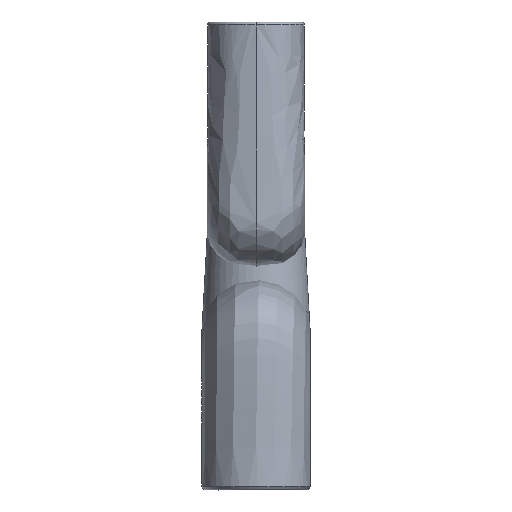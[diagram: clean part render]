
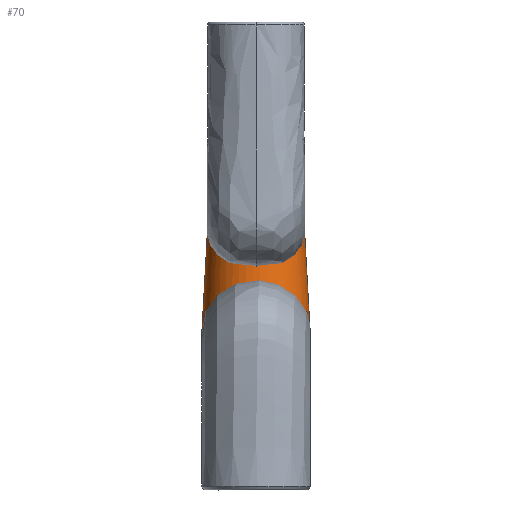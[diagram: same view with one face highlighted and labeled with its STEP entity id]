
A CAD part, left-side view. The second image highlights one B-rep face of the part: STEP entity #70.
In plain terms, the highlighted free-form (B-spline) face has degree [2, 1] with [5, 2] control points.
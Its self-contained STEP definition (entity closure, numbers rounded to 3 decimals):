
#70=ADVANCED_FACE('',(#211),#1578,.T.);
#211=FACE_OUTER_BOUND('',#352,.T.);
#352=EDGE_LOOP('',(#495,#496,#497,#498));
#495=ORIENTED_EDGE('',*,*,#1094,.T.);
#496=ORIENTED_EDGE('',*,*,#1096,.T.);
#497=ORIENTED_EDGE('',*,*,#1092,.F.);
#498=ORIENTED_EDGE('',*,*,#1091,.T.);
#1091=EDGE_CURVE('',#1403,#1405,#1716,.T.);
#1092=EDGE_CURVE('',#1403,#1404,#1717,.T.);
#1094=EDGE_CURVE('',#1405,#1406,#1719,.T.);
#1096=EDGE_CURVE('',#1406,#1404,#1721,.T.);
#1403=VERTEX_POINT('',#2160);
#1404=VERTEX_POINT('',#2161);
#1405=VERTEX_POINT('',#2162);
#1406=VERTEX_POINT('',#2163);
#1578=(
BOUNDED_SURFACE()
B_SPLINE_SURFACE(2,1,((#2140,#2141),(#2142,#2143),(#2144,#2145),(#2146,
#2147),(#2148,#2149)),.UNSPECIFIED.,.F.,.F.,.F.)
B_SPLINE_SURFACE_WITH_KNOTS((3,2,3),(2,2),(0.,79.166,158.332),
(0.,106.943),.UNSPECIFIED.)
GEOMETRIC_REPRESENTATION_ITEM()
RATIONAL_B_SPLINE_SURFACE(((1.,1.),(0.707,0.707),
(1.,1.),(0.707,0.707),(1.,1.)))
REPRESENTATION_ITEM('')
SURFACE()
);
#1716=(
BOUNDED_CURVE()
B_SPLINE_CURVE(2,(#2164,#2165,#2166,#2167,#2168),.UNSPECIFIED.,.F.,.F.)
B_SPLINE_CURVE_WITH_KNOTS((3,2,3),(0.,79.166,158.332),
 .UNSPECIFIED.)
CURVE()
GEOMETRIC_REPRESENTATION_ITEM()
RATIONAL_B_SPLINE_CURVE((1.,0.707,1.,0.707,1.))
REPRESENTATION_ITEM('')
);
#1717=(
BOUNDED_CURVE()
B_SPLINE_CURVE(1,(#2169,#2170),.UNSPECIFIED.,.F.,.F.)
B_SPLINE_CURVE_WITH_KNOTS((2,2),(0.,106.943),.UNSPECIFIED.)
CURVE()
GEOMETRIC_REPRESENTATION_ITEM()
RATIONAL_B_SPLINE_CURVE((1.,1.))
REPRESENTATION_ITEM('')
);
#1719=(
BOUNDED_CURVE()
B_SPLINE_CURVE(1,(#2176,#2177),.UNSPECIFIED.,.F.,.F.)
B_SPLINE_CURVE_WITH_KNOTS((2,2),(0.,106.943),.UNSPECIFIED.)
CURVE()
GEOMETRIC_REPRESENTATION_ITEM()
RATIONAL_B_SPLINE_CURVE((1.,1.))
REPRESENTATION_ITEM('')
);
#1721=(
BOUNDED_CURVE()
B_SPLINE_CURVE(2,(#2183,#2184,#2185,#2186,#2187),.UNSPECIFIED.,.F.,.F.)
B_SPLINE_CURVE_WITH_KNOTS((3,2,3),(-158.332,-79.166,0.),
 .UNSPECIFIED.)
CURVE()
GEOMETRIC_REPRESENTATION_ITEM()
RATIONAL_B_SPLINE_CURVE((1.,0.707,1.,0.707,1.))
REPRESENTATION_ITEM('')
);
#2140=CARTESIAN_POINT('',(1164.386,-199.009,159.29));
#2141=CARTESIAN_POINT('',(1164.203,-195.545,95.634));
#2142=CARTESIAN_POINT('',(1135.257,-198.827,159.29));
#2143=CARTESIAN_POINT('',(1131.586,-195.545,95.634));
#2144=CARTESIAN_POINT('',(1135.073,-227.761,159.29));
#2145=CARTESIAN_POINT('',(1131.586,-227.943,95.634));
#2146=CARTESIAN_POINT('',(1134.89,-256.695,159.29));
#2147=CARTESIAN_POINT('',(1131.586,-260.341,95.634));
#2148=CARTESIAN_POINT('',(1164.02,-256.877,159.29));
#2149=CARTESIAN_POINT('',(1164.203,-260.341,95.634));
#2160=CARTESIAN_POINT('',(1164.386,-199.009,159.29));
#2161=CARTESIAN_POINT('',(1164.203,-195.545,95.634));
#2162=CARTESIAN_POINT('',(1164.02,-256.877,159.29));
#2163=CARTESIAN_POINT('',(1164.203,-260.341,95.634));
#2164=CARTESIAN_POINT('',(1164.386,-199.009,159.29));
#2165=CARTESIAN_POINT('',(1135.257,-198.827,159.29));
#2166=CARTESIAN_POINT('',(1135.073,-227.761,159.29));
#2167=CARTESIAN_POINT('',(1134.89,-256.695,159.29));
#2168=CARTESIAN_POINT('',(1164.02,-256.877,159.29));
#2169=CARTESIAN_POINT('',(1164.386,-199.009,159.29));
#2170=CARTESIAN_POINT('',(1164.203,-195.545,95.634));
#2176=CARTESIAN_POINT('',(1164.02,-256.877,159.29));
#2177=CARTESIAN_POINT('',(1164.203,-260.341,95.634));
#2183=CARTESIAN_POINT('',(1164.203,-260.341,95.634));
#2184=CARTESIAN_POINT('',(1131.586,-260.341,95.634));
#2185=CARTESIAN_POINT('',(1131.586,-227.943,95.634));
#2186=CARTESIAN_POINT('',(1131.586,-195.545,95.634));
#2187=CARTESIAN_POINT('',(1164.203,-195.545,95.634));
